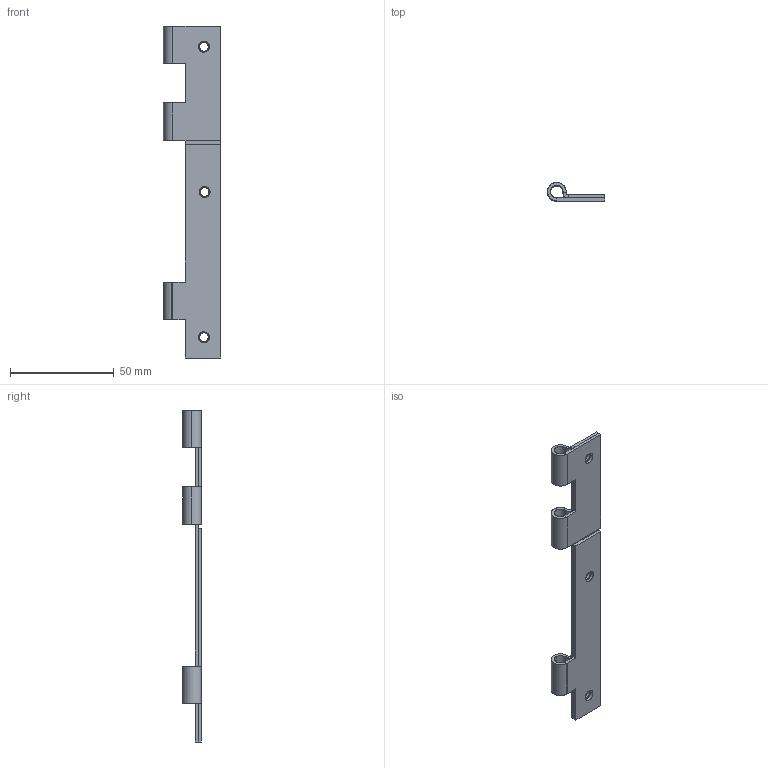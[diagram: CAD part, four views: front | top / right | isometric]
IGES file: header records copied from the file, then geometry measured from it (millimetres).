
Start section: SolidWorks IGES file using analytic representation for surfaces
Global section: file name: C:\Users\cbrechard\Desktop\cc 1474 E\41474.011.00.IGS; native system: SolidWorks 2008; preprocessor: SolidWorks 2008; author: cbrechard; date: 120124.125654; units: millimetre
Bounding box: 27.5 x 9 x 160 mm (x, y, z)
Surface area: 14909.7 mm2 (no closed solid volume)
Topology: 0 solids, 0 shells, 82 faces, 1128 edges, 1128 vertices
Faces by surface type: bspline 42, revolution 40
